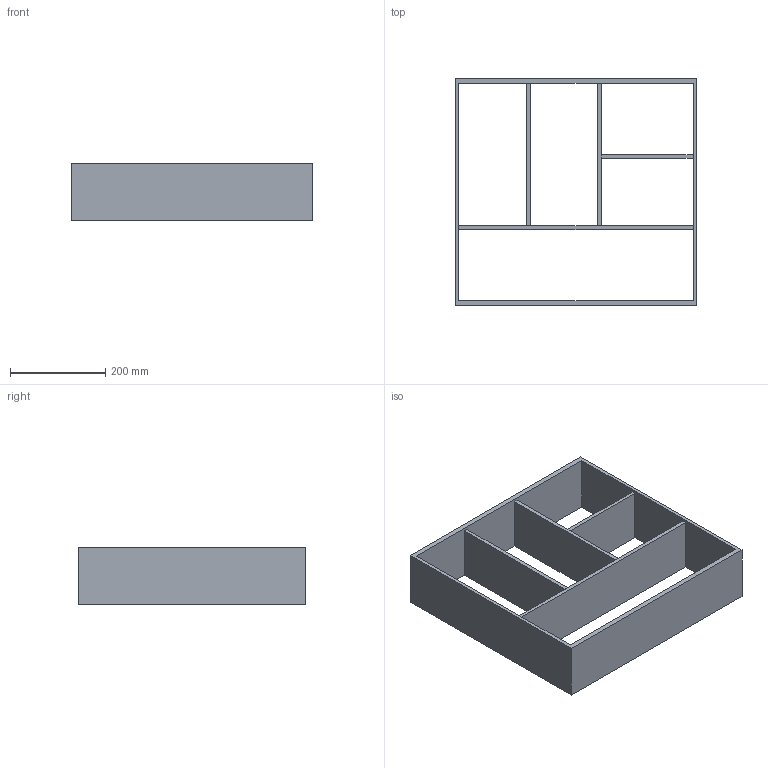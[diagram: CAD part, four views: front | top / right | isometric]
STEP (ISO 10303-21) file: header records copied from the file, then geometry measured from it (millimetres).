
FILE_DESCRIPTION (( 'STEP AP214' ), '1' );
FILE_NAME ('Vario Multi H120 NL500_B600_16 mm_Alu-Alu.step', '2010-10-08T09:48:04', ( 'grass' ), ( '' ), 'SwSTEP 2.0', 'SolidWorks 2010', '' );
FILE_SCHEMA (( 'AUTOMOTIVE_DESIGN' ));
Length unit declared in the file: millimetre
Products named in the file (1): Vario Multi H120 NL500_B600_16 mm_Alu-Alu
Bounding box: 508 x 479 x 120 mm (x, y, z)
Volume: 3388941.2 mm3; surface area: 807455 mm2
Topology: 1 solids, 1 shells, 29 faces, 80 edges, 52 vertices
Faces by surface type: plane 29
Entity records: 956 total; most frequent: CARTESIAN_POINT 162, ORIENTED_EDGE 160, DIRECTION 140, EDGE_CURVE 80, LINE 80, VECTOR 80, VERTEX_POINT 52, EDGE_LOOP 38
